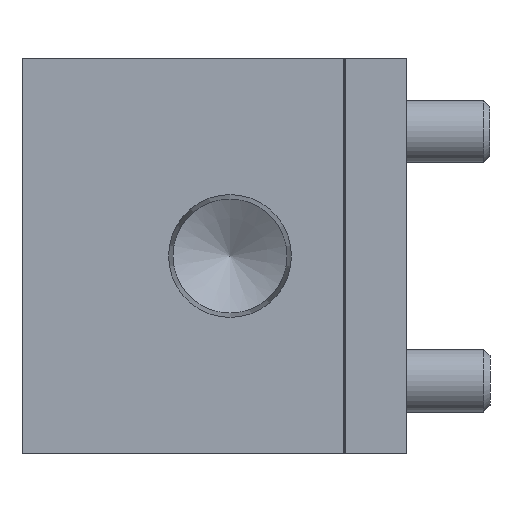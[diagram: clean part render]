
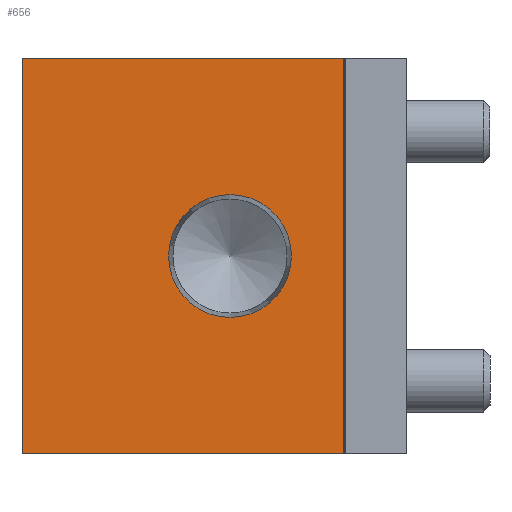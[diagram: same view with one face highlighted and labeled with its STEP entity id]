
A CAD part, left-side view. The second image highlights one B-rep face of the part: STEP entity #656.
In plain terms, the highlighted planar face has unit normal (-1, 0, 0).
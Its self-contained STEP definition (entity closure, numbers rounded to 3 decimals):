
#656 = ADVANCED_FACE( '', ( #1477, #1478 ), #1479, .F. );
#1477 = FACE_BOUND( '', #2546, .T. );
#1478 = FACE_OUTER_BOUND( '', #2547, .T. );
#1479 = PLANE( '', #2548 );
#2546 = EDGE_LOOP( '', ( #4026 ) );
#2547 = EDGE_LOOP( '', ( #4027, #4028, #4029, #4030 ) );
#2548 = AXIS2_PLACEMENT_3D( '', #4031, #4032, #4033 );
#4026 = ORIENTED_EDGE( '', *, *, #6030, .T. );
#4027 = ORIENTED_EDGE( '', *, *, #6031, .T. );
#4028 = ORIENTED_EDGE( '', *, *, #5724, .F. );
#4029 = ORIENTED_EDGE( '', *, *, #6032, .F. );
#4030 = ORIENTED_EDGE( '', *, *, #5846, .T. );
#4031 = CARTESIAN_POINT( '', ( 0., 37., 19. ) );
#4032 = DIRECTION( '', ( 1., 0., 0. ) );
#4033 = DIRECTION( '', ( 0., 0., -1. ) );
#5724 = EDGE_CURVE( '', #6675, #6677, #6678, .T. );
#5846 = EDGE_CURVE( '', #6882, #6880, #6883, .T. );
#6030 = EDGE_CURVE( '', #7156, #7156, #7157, .T. );
#6031 = EDGE_CURVE( '', #6880, #6677, #7158, .T. );
#6032 = EDGE_CURVE( '', #6882, #6675, #7159, .T. );
#6675 = VERTEX_POINT( '', #7966 );
#6677 = VERTEX_POINT( '', #7969 );
#6678 = LINE( '', #7970, #7971 );
#6880 = VERTEX_POINT( '', #8239 );
#6882 = VERTEX_POINT( '', #8242 );
#6883 = LINE( '', #8243, #8244 );
#7156 = VERTEX_POINT( '', #8596 );
#7157 = CIRCLE( '', #8597, 5.91 );
#7158 = LINE( '', #8598, #8599 );
#7159 = LINE( '', #8600, #8601 );
#7966 = CARTESIAN_POINT( '', ( 0., 6.1, 19. ) );
#7969 = CARTESIAN_POINT( '', ( 0., 6.1, -19. ) );
#7970 = CARTESIAN_POINT( '', ( 0., 6.1, 19. ) );
#7971 = VECTOR( '', #9530, 1000. );
#8239 = CARTESIAN_POINT( '', ( 0., 37., -19. ) );
#8242 = CARTESIAN_POINT( '', ( 0., 37., 19. ) );
#8243 = CARTESIAN_POINT( '', ( 0., 37., 19. ) );
#8244 = VECTOR( '', #9670, 1000. );
#8596 = CARTESIAN_POINT( '', ( 0., 17., -5.91 ) );
#8597 = AXIS2_PLACEMENT_3D( '', #9903, #9904, #9905 );
#8598 = CARTESIAN_POINT( '', ( 0., 37., -19. ) );
#8599 = VECTOR( '', #9906, 1000. );
#8600 = CARTESIAN_POINT( '', ( 0., 37., 19. ) );
#8601 = VECTOR( '', #9907, 1000. );
#9530 = DIRECTION( '', ( 0., 0., -1. ) );
#9670 = DIRECTION( '', ( 0., 0., -1. ) );
#9903 = CARTESIAN_POINT( '', ( 0., 17., 0. ) );
#9904 = DIRECTION( '', ( 1., 0., 0. ) );
#9905 = DIRECTION( '', ( 0., 0., -1. ) );
#9906 = DIRECTION( '', ( 0., -1., 0. ) );
#9907 = DIRECTION( '', ( 0., -1., 0. ) );
